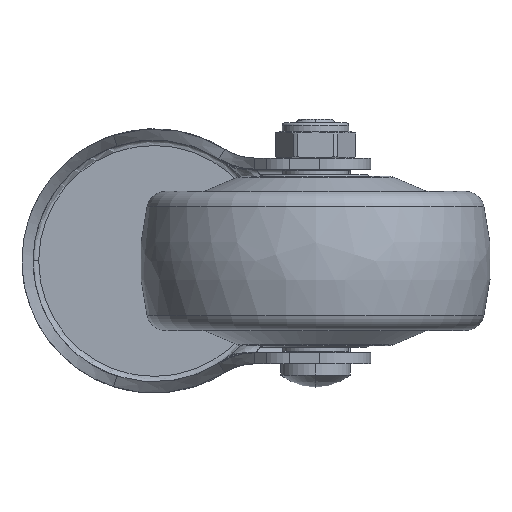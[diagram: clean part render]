
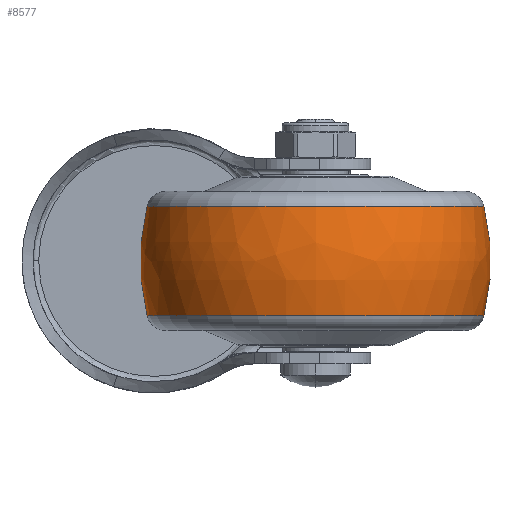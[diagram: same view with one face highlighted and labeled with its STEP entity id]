
A CAD part, front view. The second image highlights one B-rep face of the part: STEP entity #8577.
In plain terms, the highlighted free-form (B-spline) face has degree [3, 3] with [7, 4] control points.
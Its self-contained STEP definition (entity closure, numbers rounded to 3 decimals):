
#8063=CARTESIAN_POINT('',(0.,-8.5,0.));
#8064=DIRECTION('',(0.,0.,1.));
#8065=DIRECTION('',(0.247,0.969,0.));
#8066=AXIS2_PLACEMENT_3D('',#8063,#8064,#8065);
#8068=CARTESIAN_POINT('',(0.,8.5,0.));
#8069=DIRECTION('',(0.,0.,-1.));
#8070=DIRECTION('',(0.247,-0.969,0.));
#8071=AXIS2_PLACEMENT_3D('',#8068,#8069,#8070);
#8073=CARTESIAN_POINT('',(9.863,0.,0.));
#8074=DIRECTION('',(-1.,0.,0.));
#8075=DIRECTION('',(0.,1.,0.));
#8076=AXIS2_PLACEMENT_3D('',#8073,#8074,#8075);
#8098=CARTESIAN_POINT('',(-9.863,0.,0.));
#8099=DIRECTION('',(-1.,0.,0.));
#8100=DIRECTION('',(0.,1.,0.));
#8101=AXIS2_PLACEMENT_3D('',#8098,#8099,#8100);
#8228=CARTESIAN_POINT('',(9.863,30.265,0.));
#8230=VERTEX_POINT('',#8228);
#8231=CARTESIAN_POINT('',(-9.863,30.265,0.));
#8232=VERTEX_POINT('',#8231);
#8268=CARTESIAN_POINT('',(9.863,-30.265,0.));
#8270=VERTEX_POINT('',#8268);
#8271=CARTESIAN_POINT('',(-9.863,-30.265,0.));
#8272=VERTEX_POINT('',#8271);
#8539=CARTESIAN_POINT('',(-10.249,-30.105,
1.894));
#8540=CARTESIAN_POINT('',(-3.494,-31.892,
2.006));
#8541=CARTESIAN_POINT('',(3.494,-31.892,2.006));
#8542=CARTESIAN_POINT('',(10.249,-30.105,1.894));
#8543=CARTESIAN_POINT('',(-10.249,-31.271,
-16.633));
#8544=CARTESIAN_POINT('',(-3.494,-33.127,
-17.62));
#8545=CARTESIAN_POINT('',(3.494,-33.127,
-17.62));
#8546=CARTESIAN_POINT('',(10.249,-31.271,
-16.633));
#8547=CARTESIAN_POINT('',(-10.249,-18.563,
-30.165));
#8548=CARTESIAN_POINT('',(-3.494,-19.665,
-31.955));
#8549=CARTESIAN_POINT('',(3.494,-19.665,
-31.955));
#8550=CARTESIAN_POINT('',(10.249,-18.563,
-30.165));
#8551=CARTESIAN_POINT('',(-10.249,0.,-30.165));
#8552=CARTESIAN_POINT('',(-3.494,0.,-31.955));
#8553=CARTESIAN_POINT('',(3.494,0.,-31.955));
#8554=CARTESIAN_POINT('',(10.249,0.,-30.165));
#8555=CARTESIAN_POINT('',(-10.249,18.563,
-30.165));
#8556=CARTESIAN_POINT('',(-3.494,19.665,
-31.955));
#8557=CARTESIAN_POINT('',(3.494,19.665,-31.955));
#8558=CARTESIAN_POINT('',(10.249,18.563,-30.165));
#8559=CARTESIAN_POINT('',(-10.249,31.271,
-16.633));
#8560=CARTESIAN_POINT('',(-3.494,33.127,
-17.62));
#8561=CARTESIAN_POINT('',(3.494,33.127,-17.62));
#8562=CARTESIAN_POINT('',(10.249,31.271,-16.633));
#8563=CARTESIAN_POINT('',(-10.249,30.105,1.894));
#8564=CARTESIAN_POINT('',(-3.494,31.892,2.006));
#8565=CARTESIAN_POINT('',(3.494,31.892,2.006));
#8566=CARTESIAN_POINT('',(10.249,30.105,1.894));
#8567=(BOUNDED_SURFACE()B_SPLINE_SURFACE(3,3,((#8539,#8540,#8541,#8542),(#8543,
#8544,#8545,#8546),(#8547,#8548,#8549,#8550),(#8551,#8552,#8553,#8554),(#8555,
#8556,#8557,#8558),(#8559,#8560,#8561,#8562),(#8563,#8564,#8565,#8566)),
.UNSPECIFIED.,.F.,.F.,.F.)B_SPLINE_SURFACE_WITH_KNOTS((4,3,4),(4,4),(0.,1.,
2.),(0.,1.),.UNSPECIFIED.)GEOMETRIC_REPRESENTATION_ITEM()RATIONAL_B_SPLINE_SURFACE(((1.207,1.181,1.181,1.207),(
0.953,0.932,0.932,0.953),(
0.953,0.932,0.932,0.953),(
1.207,1.181,1.181,1.207),(
0.953,0.932,0.932,0.953),(
0.953,0.932,0.932,0.953),(
1.207,1.181,1.181,1.207)))REPRESENTATION_ITEM('')SURFACE());
#8569=ORIENTED_EDGE('',*,*,#8568,.T.);
#8571=ORIENTED_EDGE('',*,*,#8570,.T.);
#8573=ORIENTED_EDGE('',*,*,#8572,.F.);
#8574=ORIENTED_EDGE('',*,*,#8532,.F.);
#8575=EDGE_LOOP('',(#8569,#8571,#8573,#8574));
#8576=FACE_OUTER_BOUND('',#8575,.F.);
#8067=CIRCLE('',#8066,40.);
#8072=CIRCLE('',#8071,40.);
#8077=CIRCLE('',#8076,30.265);
#8102=CIRCLE('',#8101,30.265);
#8532=EDGE_CURVE('',#8230,#8270,#8077,.T.);
#8568=EDGE_CURVE('',#8230,#8232,#8067,.T.);
#8570=EDGE_CURVE('',#8232,#8272,#8102,.T.);
#8572=EDGE_CURVE('',#8270,#8272,#8072,.T.);
#8577=ADVANCED_FACE('',(#8576),#8567,.T.);
